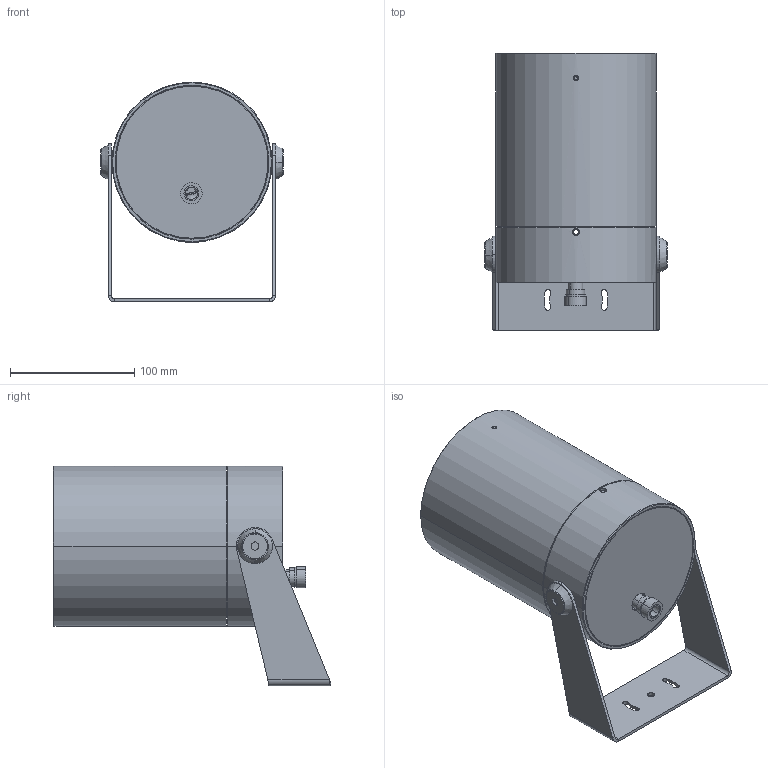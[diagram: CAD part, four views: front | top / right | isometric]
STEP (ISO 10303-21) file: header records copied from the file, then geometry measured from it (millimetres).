
FILE_DESCRIPTION((''),'2;1');
FILE_NAME('ASM0003_SW0001','2025-05-27T12:06:07',('elena.baldelli'),(''),'CREO PARAMETRIC BY PTC INC, 2020354','CREO PARAMETRIC BY PTC INC, 2020354','');
FILE_SCHEMA(('CONFIG_CONTROL_DESIGN'));
Length unit declared in the file: millimetre
Products named in the file (1): ASM0003_SW0001
Bounding box: 146.7 x 223.5 x 177 mm (x, y, z)
Surface area: 218026 mm2 (no closed solid volume)
Topology: 0 solids, 47 shells, 186 faces, 568 edges, 412 vertices
Faces by surface type: cylinder 62, plane 47, bspline 40, cone 31, torus 6
Entity records: 24896 total; most frequent: CARTESIAN_POINT 19813, DIRECTION 1133, ORIENTED_EDGE 864, EDGE_CURVE 568, AXIS2_PLACEMENT_3D 454, VERTEX_POINT 412, CIRCLE 308, VECTOR 225
